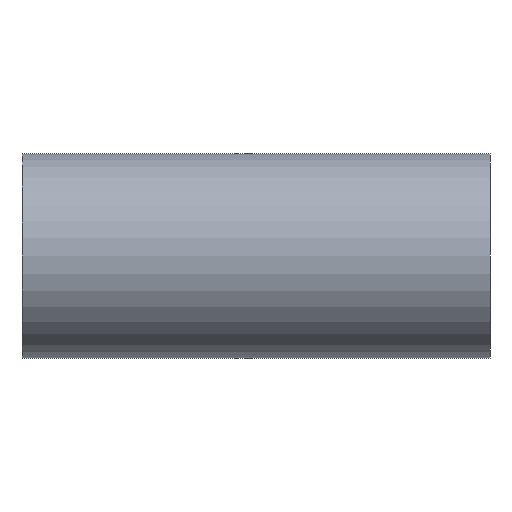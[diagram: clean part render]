
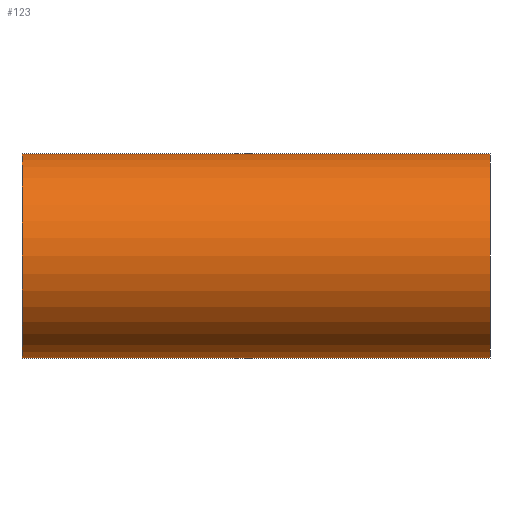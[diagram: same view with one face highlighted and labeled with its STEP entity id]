
A CAD part, front view. The second image highlights one B-rep face of the part: STEP entity #123.
In plain terms, the highlighted cylindrical face has radius 17.5 mm (diameter 35 mm), a full revolution.
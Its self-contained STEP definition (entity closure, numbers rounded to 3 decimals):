
#96=CARTESIAN_POINT('',(0.0,0.0,0.0));
#97=DIRECTION('',(1.0,0.0,0.0));
#98=DIRECTION('',(0.0,-1.0,0.0));
#99=AXIS2_PLACEMENT_3D('',#96,#97,#98);
#100=CYLINDRICAL_SURFACE('',#99,17.5);
#101=CARTESIAN_POINT('',(80.0,17.5,0.));
#102=VERTEX_POINT('',#101);
#103=CARTESIAN_POINT('',(80.0,0.0,0.0));
#104=DIRECTION('',(-1.0,0.0,0.0));
#105=DIRECTION('',(0.0,-1.0,0.0));
#106=AXIS2_PLACEMENT_3D('',#103,#104,#105);
#107=CIRCLE('',#106,17.5);
#108=EDGE_CURVE('',#102,#102,#107,.T.);
#109=ORIENTED_EDGE('',*,*,#108,.T.);
#110=EDGE_LOOP('',(#109));
#111=FACE_OUTER_BOUND('',#110,.T.);
#112=CARTESIAN_POINT('',(0.0,17.5,0.));
#113=VERTEX_POINT('',#112);
#114=CARTESIAN_POINT('',(0.0,0.0,0.0));
#115=DIRECTION('',(-1.0,0.0,0.0));
#116=DIRECTION('',(0.0,-1.0,0.0));
#117=AXIS2_PLACEMENT_3D('',#114,#115,#116);
#118=CIRCLE('',#117,17.5);
#119=EDGE_CURVE('',#113,#113,#118,.T.);
#120=ORIENTED_EDGE('',*,*,#119,.F.);
#121=EDGE_LOOP('',(#120));
#122=FACE_BOUND('',#121,.T.);
#123=ADVANCED_FACE('',(#111,#122),#100,.T.);
